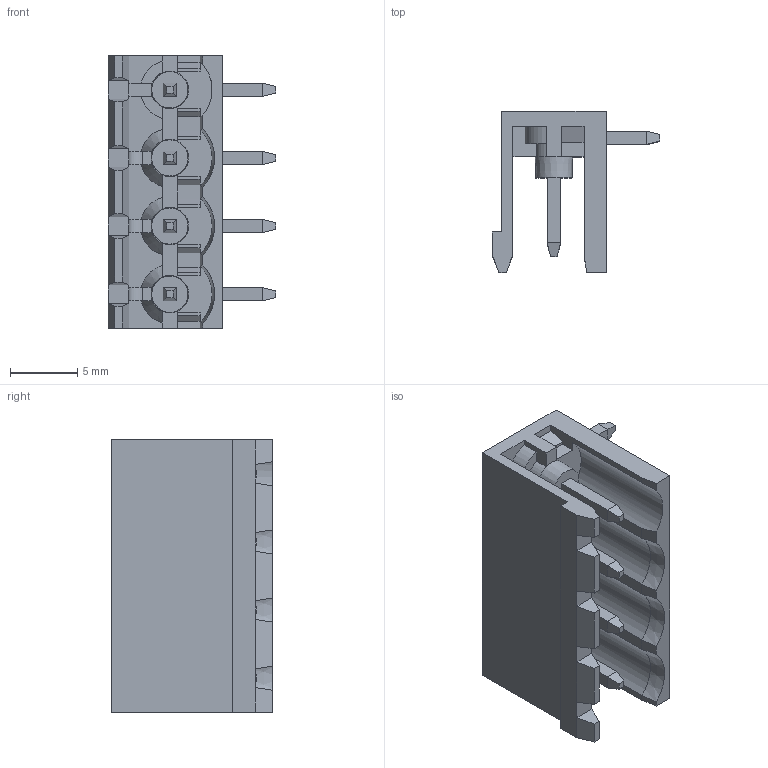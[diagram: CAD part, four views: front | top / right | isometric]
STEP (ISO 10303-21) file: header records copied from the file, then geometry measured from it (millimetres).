
FILE_DESCRIPTION (( 'STEP AP203' ), '1' );
FILE_NAME ('BR8MN1-04.STEP', '2020-03-18T03:23:40', ( '' ), ( '' ), 'SwSTEP 2.0', 'SolidWorks 2019', '' );
FILE_SCHEMA (( 'CONFIG_CONTROL_DESIGN' ));
Length unit declared in the file: millimetre
Products named in the file (1): BR8MN1-04
Bounding box: 12.5 x 12 x 20.32 mm (x, y, z)
Volume: 778.9 mm3; surface area: 1792.3 mm2
Topology: 1 solids, 1 shells, 351 faces, 918 edges, 569 vertices
Faces by surface type: plane 305, cylinder 21, cone 17, sphere 8
Entity records: 10508 total; most frequent: CARTESIAN_POINT 1968, ORIENTED_EDGE 1804, DIRECTION 1653, EDGE_CURVE 902, VECTOR 781, LINE 781, VERTEX_POINT 561, AXIS2_PLACEMENT_3D 436
